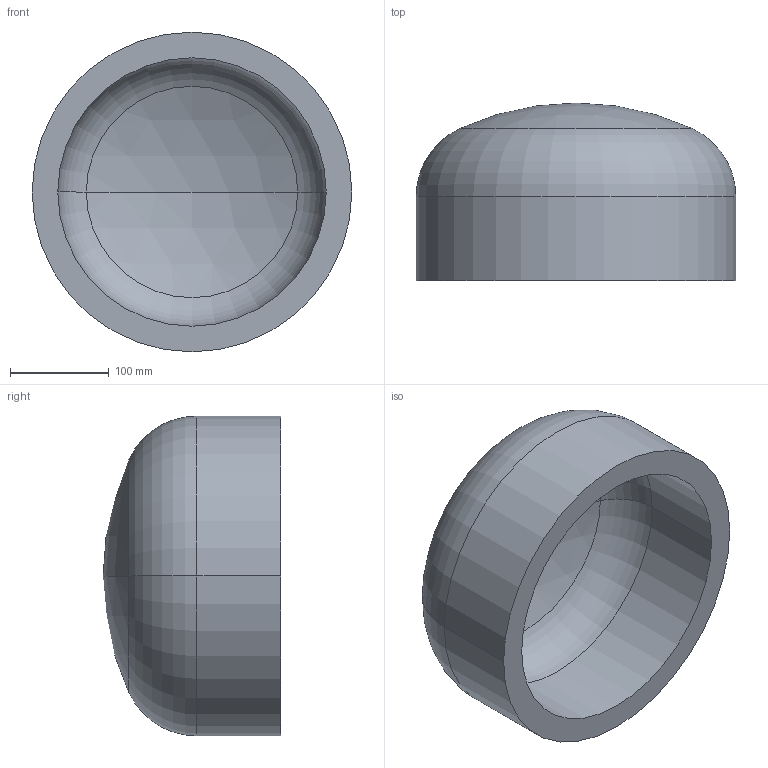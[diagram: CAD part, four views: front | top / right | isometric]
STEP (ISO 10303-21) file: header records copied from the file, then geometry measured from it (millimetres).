
FILE_DESCRIPTION (( 'STEP AP203' ), '1' );
FILE_NAME ('DIN 28013 Korbbogenform_-_Boden DIN 28013 - 323,9 x 85 - I - s=26.step', '2016-07-01T07:45:00', ( '' ), ( '' ), 'SwSTEP 2.0', 'SolidWorks 2013', '' );
FILE_SCHEMA (( 'CONFIG_CONTROL_DESIGN' ));
Length unit declared in the file: millimetre
Products named in the file (1): DIN 28013 Korbbogenform_-_Boden DIN 28013 - 323,9 x 85 - I - s=26
Bounding box: 323.9 x 179.99 x 323.9 mm (x, y, z)
Volume: 4754438.8 mm3; surface area: 391474.7 mm2
Topology: 1 solids, 1 shells, 13 faces, 24 edges, 14 vertices
Faces by surface type: torus 4, cylinder 4, sphere 4, plane 1
Entity records: 407 total; most frequent: DIRECTION 72, CARTESIAN_POINT 52, ORIENTED_EDGE 48, AXIS2_PLACEMENT_3D 34, EDGE_CURVE 24, CIRCLE 20, EDGE_LOOP 14, VERTEX_POINT 14
